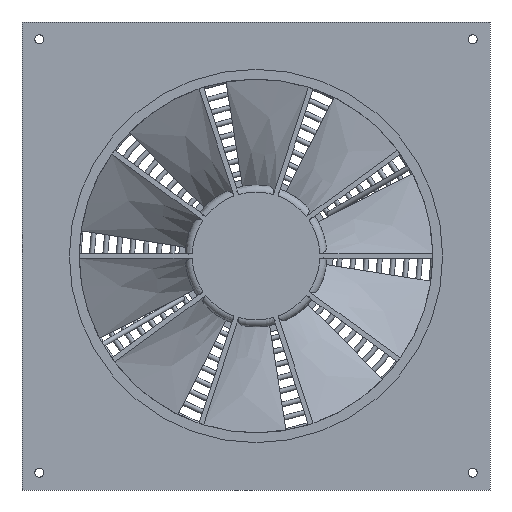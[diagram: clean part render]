
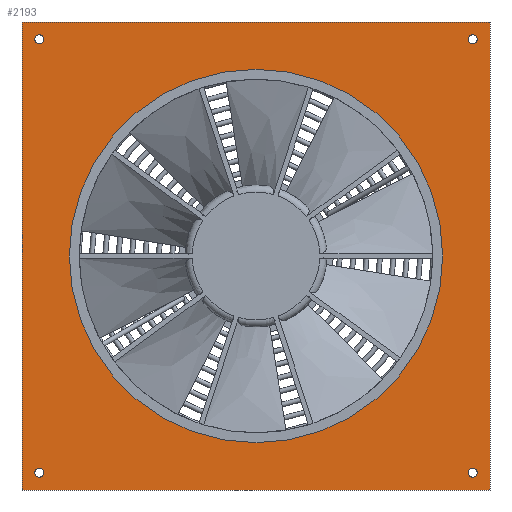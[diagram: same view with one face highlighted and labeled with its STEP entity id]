
A CAD part, front view. The second image highlights one B-rep face of the part: STEP entity #2193.
In plain terms, the highlighted planar face has unit normal (0, -1, 0).
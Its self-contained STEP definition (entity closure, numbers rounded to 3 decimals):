
#58=FACE_BOUND('',#626,.T.);
#59=FACE_BOUND('',#627,.T.);
#60=FACE_BOUND('',#628,.T.);
#61=FACE_BOUND('',#629,.T.);
#62=FACE_BOUND('',#630,.T.);
#84=PLANE('',#2419);
#248=LINE('',#3890,#338);
#250=LINE('',#3897,#340);
#252=LINE('',#3903,#342);
#253=LINE('',#3905,#343);
#338=VECTOR('',#2722,10.);
#340=VECTOR('',#2730,10.);
#342=VECTOR('',#2736,10.);
#343=VECTOR('',#2739,10.);
#505=FACE_OUTER_BOUND('',#625,.T.);
#625=EDGE_LOOP('',(#1740,#1741,#1742,#1743));
#626=EDGE_LOOP('',(#1744,#1745));
#627=EDGE_LOOP('',(#1746,#1747));
#628=EDGE_LOOP('',(#1748,#1749));
#629=EDGE_LOOP('',(#1750,#1751));
#630=EDGE_LOOP('',(#1752));
#762=CIRCLE('',#2402,4.5);
#763=CIRCLE('',#2403,4.5);
#764=CIRCLE('',#2405,4.5);
#765=CIRCLE('',#2406,4.5);
#766=CIRCLE('',#2408,4.5);
#767=CIRCLE('',#2409,4.5);
#768=CIRCLE('',#2411,4.5);
#769=CIRCLE('',#2412,4.5);
#771=CIRCLE('',#2415,189.5);
#917=VERTEX_POINT('',#3887);
#918=VERTEX_POINT('',#3889);
#920=VERTEX_POINT('',#3895);
#922=VERTEX_POINT('',#3901);
#927=VERTEX_POINT('',#3917);
#928=VERTEX_POINT('',#3918);
#929=VERTEX_POINT('',#3923);
#930=VERTEX_POINT('',#3924);
#931=VERTEX_POINT('',#3929);
#932=VERTEX_POINT('',#3930);
#933=VERTEX_POINT('',#3935);
#934=VERTEX_POINT('',#3936);
#936=VERTEX_POINT('',#3943);
#1205=EDGE_CURVE('',#918,#917,#248,.T.);
#1209=EDGE_CURVE('',#917,#920,#250,.T.);
#1212=EDGE_CURVE('',#920,#922,#252,.T.);
#1213=EDGE_CURVE('',#922,#918,#253,.T.);
#1219=EDGE_CURVE('',#927,#928,#762,.T.);
#1220=EDGE_CURVE('',#928,#927,#763,.T.);
#1222=EDGE_CURVE('',#929,#930,#764,.T.);
#1223=EDGE_CURVE('',#930,#929,#765,.T.);
#1225=EDGE_CURVE('',#931,#932,#766,.T.);
#1226=EDGE_CURVE('',#932,#931,#767,.T.);
#1228=EDGE_CURVE('',#933,#934,#768,.T.);
#1229=EDGE_CURVE('',#934,#933,#769,.T.);
#1233=EDGE_CURVE('',#936,#936,#771,.T.);
#1740=ORIENTED_EDGE('',*,*,#1205,.T.);
#1741=ORIENTED_EDGE('',*,*,#1209,.T.);
#1742=ORIENTED_EDGE('',*,*,#1212,.T.);
#1743=ORIENTED_EDGE('',*,*,#1213,.T.);
#1744=ORIENTED_EDGE('',*,*,#1219,.T.);
#1745=ORIENTED_EDGE('',*,*,#1220,.T.);
#1746=ORIENTED_EDGE('',*,*,#1222,.T.);
#1747=ORIENTED_EDGE('',*,*,#1223,.T.);
#1748=ORIENTED_EDGE('',*,*,#1225,.T.);
#1749=ORIENTED_EDGE('',*,*,#1226,.T.);
#1750=ORIENTED_EDGE('',*,*,#1228,.T.);
#1751=ORIENTED_EDGE('',*,*,#1229,.T.);
#1752=ORIENTED_EDGE('',*,*,#1233,.T.);
#2193=ADVANCED_FACE('',(#505,#58,#59,#60,#61,#62),#84,.F.);
#2402=AXIS2_PLACEMENT_3D('',#3919,#2753,#2754);
#2403=AXIS2_PLACEMENT_3D('',#3920,#2755,#2756);
#2405=AXIS2_PLACEMENT_3D('',#3925,#2760,#2761);
#2406=AXIS2_PLACEMENT_3D('',#3926,#2762,#2763);
#2408=AXIS2_PLACEMENT_3D('',#3931,#2767,#2768);
#2409=AXIS2_PLACEMENT_3D('',#3932,#2769,#2770);
#2411=AXIS2_PLACEMENT_3D('',#3937,#2774,#2775);
#2412=AXIS2_PLACEMENT_3D('',#3938,#2776,#2777);
#2415=AXIS2_PLACEMENT_3D('',#3945,#2784,#2785);
#2419=AXIS2_PLACEMENT_3D('',#3949,#2792,#2793);
#2722=DIRECTION('',(1.,0.,0.));
#2730=DIRECTION('',(0.,0.,1.));
#2736=DIRECTION('',(-1.,0.,0.));
#2739=DIRECTION('',(0.,0.,-1.));
#2753=DIRECTION('center_axis',(0.,1.,0.));
#2754=DIRECTION('ref_axis',(1.,0.,0.));
#2755=DIRECTION('center_axis',(0.,1.,0.));
#2756=DIRECTION('ref_axis',(1.,0.,0.));
#2760=DIRECTION('center_axis',(0.,1.,0.));
#2761=DIRECTION('ref_axis',(1.,0.,0.));
#2762=DIRECTION('center_axis',(0.,1.,0.));
#2763=DIRECTION('ref_axis',(1.,0.,0.));
#2767=DIRECTION('center_axis',(0.,1.,0.));
#2768=DIRECTION('ref_axis',(1.,0.,0.));
#2769=DIRECTION('center_axis',(0.,1.,0.));
#2770=DIRECTION('ref_axis',(1.,0.,0.));
#2774=DIRECTION('center_axis',(0.,1.,0.));
#2775=DIRECTION('ref_axis',(1.,0.,0.));
#2776=DIRECTION('center_axis',(0.,1.,0.));
#2777=DIRECTION('ref_axis',(1.,0.,0.));
#2784=DIRECTION('center_axis',(0.,1.,0.));
#2785=DIRECTION('ref_axis',(-1.,0.,0.));
#2792=DIRECTION('center_axis',(0.,1.,0.));
#2793=DIRECTION('ref_axis',(0.,0.,1.));
#3887=CARTESIAN_POINT('',(237.5,0.,-237.5));
#3889=CARTESIAN_POINT('',(-237.5,0.,-237.5));
#3890=CARTESIAN_POINT('',(-237.5,0.,-237.5));
#3895=CARTESIAN_POINT('',(237.5,0.,237.5));
#3897=CARTESIAN_POINT('',(237.5,0.,-237.5));
#3901=CARTESIAN_POINT('',(-237.5,0.,237.5));
#3903=CARTESIAN_POINT('',(237.5,0.,237.5));
#3905=CARTESIAN_POINT('',(-237.5,0.,237.5));
#3917=CARTESIAN_POINT('',(-215.5,0.,-220.));
#3918=CARTESIAN_POINT('',(-224.5,0.,-220.));
#3919=CARTESIAN_POINT('Origin',(-220.,0.,-220.));
#3920=CARTESIAN_POINT('Origin',(-220.,0.,-220.));
#3923=CARTESIAN_POINT('',(224.5,0.,220.));
#3924=CARTESIAN_POINT('',(215.5,0.,220.));
#3925=CARTESIAN_POINT('Origin',(220.,0.,220.));
#3926=CARTESIAN_POINT('Origin',(220.,0.,220.));
#3929=CARTESIAN_POINT('',(224.5,0.,-220.));
#3930=CARTESIAN_POINT('',(215.5,0.,-220.));
#3931=CARTESIAN_POINT('Origin',(220.,0.,-220.));
#3932=CARTESIAN_POINT('Origin',(220.,0.,-220.));
#3935=CARTESIAN_POINT('',(-215.5,0.,220.));
#3936=CARTESIAN_POINT('',(-224.5,0.,220.));
#3937=CARTESIAN_POINT('Origin',(-220.,0.,220.));
#3938=CARTESIAN_POINT('Origin',(-220.,0.,220.));
#3943=CARTESIAN_POINT('',(189.5,0.,0.));
#3945=CARTESIAN_POINT('Origin',(0.,0.,0.));
#3949=CARTESIAN_POINT('Origin',(0.,0.,0.));
